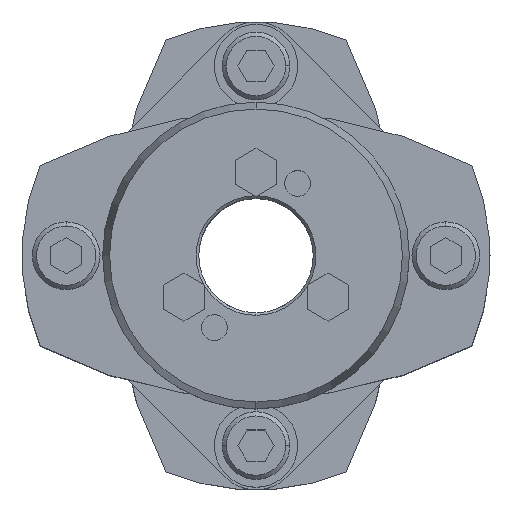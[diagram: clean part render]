
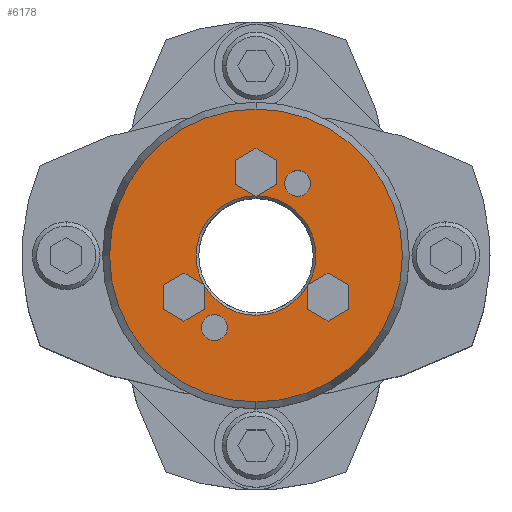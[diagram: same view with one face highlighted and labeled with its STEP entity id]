
A CAD part, top view. The second image highlights one B-rep face of the part: STEP entity #6178.
In plain terms, the highlighted planar face has unit normal (0, 0, 1).
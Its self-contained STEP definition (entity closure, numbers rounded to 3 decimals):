
#1694=CARTESIAN_POINT('',(0.,-11.5,52.0));
#1695=VERTEX_POINT('',#1694);
#1702=CARTESIAN_POINT('',(9.856,-5.925,52.0));
#1703=VERTEX_POINT('',#1702);
#1704=CARTESIAN_POINT('',(0.,0.,52.0));
#1705=DIRECTION('',(0.0,0.0,1.0));
#1706=DIRECTION('',(0.0,1.0,0.0));
#1707=AXIS2_PLACEMENT_3D('',#1704,#1705,#1706);
#1708=CIRCLE('',#1707,11.5);
#1709=EDGE_CURVE('',#1695,#1703,#1708,.T.);
#1711=CARTESIAN_POINT('',(10.059,-5.574,52.0));
#1712=VERTEX_POINT('',#1711);
#1720=CARTESIAN_POINT('',(0.203,11.498,52.0));
#1721=VERTEX_POINT('',#1720);
#1722=CARTESIAN_POINT('',(0.,0.,52.0));
#1723=DIRECTION('',(0.0,0.0,1.0));
#1724=DIRECTION('',(0.0,1.0,0.0));
#1725=AXIS2_PLACEMENT_3D('',#1722,#1723,#1724);
#1726=CIRCLE('',#1725,11.5);
#1727=EDGE_CURVE('',#1712,#1721,#1726,.T.);
#1892=CARTESIAN_POINT('',(0.,-28.16,52.0));
#1893=VERTEX_POINT('',#1892);
#1900=CARTESIAN_POINT('',(0.,28.16,52.0));
#1901=VERTEX_POINT('',#1900);
#1902=CARTESIAN_POINT('',(0.,0.,52.0));
#1903=DIRECTION('',(0.0,0.0,-1.0));
#1904=DIRECTION('',(0.0,-1.0,0.0));
#1905=AXIS2_PLACEMENT_3D('',#1902,#1903,#1904);
#1906=CIRCLE('',#1905,28.16);
#1907=EDGE_CURVE('',#1893,#1901,#1906,.T.);
#2150=CARTESIAN_POINT('',(8.,16.356,52.0));
#2151=VERTEX_POINT('',#2150);
#2167=CARTESIAN_POINT('',(8.,11.356,52.0));
#2168=VERTEX_POINT('',#2167);
#2175=CARTESIAN_POINT('',(8.,13.856,52.0));
#2176=DIRECTION('',(0.0,0.0,-1.0));
#2177=DIRECTION('',(0.0,1.0,0.0));
#2178=AXIS2_PLACEMENT_3D('',#2175,#2176,#2177);
#2179=CIRCLE('',#2178,2.5);
#2180=EDGE_CURVE('',#2151,#2168,#2179,.T.);
#2192=CARTESIAN_POINT('',(-8.,-11.356,52.0));
#2193=VERTEX_POINT('',#2192);
#2209=CARTESIAN_POINT('',(-8.,-16.356,52.0));
#2210=VERTEX_POINT('',#2209);
#2217=CARTESIAN_POINT('',(-8.,-13.856,52.0));
#2218=DIRECTION('',(0.0,0.0,-1.0));
#2219=DIRECTION('',(0.0,1.0,0.0));
#2220=AXIS2_PLACEMENT_3D('',#2217,#2218,#2219);
#2221=CIRCLE('',#2220,2.5);
#2222=EDGE_CURVE('',#2193,#2210,#2221,.T.);
#4604=CARTESIAN_POINT('',(13.856,-3.381,52.0));
#4605=VERTEX_POINT('',#4604);
#4612=CARTESIAN_POINT('',(10.059,-5.574,52.0));
#4613=DIRECTION('',(0.866,0.5,0.0));
#4614=VECTOR('',#4613,4.385);
#4615=LINE('',#4612,#4614);
#4616=EDGE_CURVE('',#1712,#4605,#4615,.T.);
#4648=CARTESIAN_POINT('',(17.856,-5.691,52.0));
#4649=VERTEX_POINT('',#4648);
#4656=CARTESIAN_POINT('',(13.856,-3.381,52.0));
#4657=DIRECTION('',(0.866,-0.5,0.0));
#4658=VECTOR('',#4657,4.619);
#4659=LINE('',#4656,#4658);
#4660=EDGE_CURVE('',#4605,#4649,#4659,.T.);
#4679=CARTESIAN_POINT('',(17.856,-10.309,52.0));
#4680=VERTEX_POINT('',#4679);
#4687=CARTESIAN_POINT('',(17.856,-5.691,52.0));
#4688=DIRECTION('',(0.0,-1.0,0.0));
#4689=VECTOR('',#4688,4.619);
#4690=LINE('',#4687,#4689);
#4691=EDGE_CURVE('',#4649,#4680,#4690,.T.);
#4710=CARTESIAN_POINT('',(13.856,-12.619,52.0));
#4711=VERTEX_POINT('',#4710);
#4718=CARTESIAN_POINT('',(17.856,-10.309,52.0));
#4719=DIRECTION('',(-0.866,-0.5,0.0));
#4720=VECTOR('',#4719,4.619);
#4721=LINE('',#4718,#4720);
#4722=EDGE_CURVE('',#4680,#4711,#4721,.T.);
#4741=CARTESIAN_POINT('',(9.856,-10.309,52.0));
#4742=VERTEX_POINT('',#4741);
#4749=CARTESIAN_POINT('',(13.856,-12.619,52.0));
#4750=DIRECTION('',(-0.866,0.5,0.0));
#4751=VECTOR('',#4750,4.619);
#4752=LINE('',#4749,#4751);
#4753=EDGE_CURVE('',#4711,#4742,#4752,.T.);
#4777=CARTESIAN_POINT('',(9.856,-10.309,52.0));
#4778=DIRECTION('',(0.0,1.0,0.0));
#4779=VECTOR('',#4778,4.385);
#4780=LINE('',#4777,#4779);
#4781=EDGE_CURVE('',#4742,#1703,#4780,.T.);
#4827=CARTESIAN_POINT('',(0.,20.619,52.0));
#4828=VERTEX_POINT('',#4827);
#4835=CARTESIAN_POINT('',(-4.,18.309,52.0));
#4836=VERTEX_POINT('',#4835);
#4837=CARTESIAN_POINT('',(-4.,18.309,52.0));
#4838=DIRECTION('',(0.866,0.5,0.0));
#4839=VECTOR('',#4838,4.619);
#4840=LINE('',#4837,#4839);
#4841=EDGE_CURVE('',#4836,#4828,#4840,.T.);
#4865=CARTESIAN_POINT('',(4.,18.309,52.0));
#4866=VERTEX_POINT('',#4865);
#4873=CARTESIAN_POINT('',(0.,20.619,52.0));
#4874=DIRECTION('',(0.866,-0.5,0.0));
#4875=VECTOR('',#4874,4.619);
#4876=LINE('',#4873,#4875);
#4877=EDGE_CURVE('',#4828,#4866,#4876,.T.);
#4896=CARTESIAN_POINT('',(4.,13.691,52.0));
#4897=VERTEX_POINT('',#4896);
#4904=CARTESIAN_POINT('',(4.,18.309,52.0));
#4905=DIRECTION('',(0.0,-1.0,0.0));
#4906=VECTOR('',#4905,4.619);
#4907=LINE('',#4904,#4906);
#4908=EDGE_CURVE('',#4866,#4897,#4907,.T.);
#4941=CARTESIAN_POINT('',(4.,13.691,52.0));
#4942=DIRECTION('',(-0.866,-0.5,0.0));
#4943=VECTOR('',#4942,4.385);
#4944=LINE('',#4941,#4943);
#4945=EDGE_CURVE('',#4897,#1721,#4944,.T.);
#4964=CARTESIAN_POINT('',(-4.,13.691,52.0));
#4965=VERTEX_POINT('',#4964);
#4972=CARTESIAN_POINT('',(-0.203,11.498,52.0));
#4973=VERTEX_POINT('',#4972);
#4974=CARTESIAN_POINT('',(-0.203,11.498,52.0));
#4975=DIRECTION('',(-0.866,0.5,0.0));
#4976=VECTOR('',#4975,4.385);
#4977=LINE('',#4974,#4976);
#4978=EDGE_CURVE('',#4973,#4965,#4977,.T.);
#5002=CARTESIAN_POINT('',(-4.,13.691,52.0));
#5003=DIRECTION('',(0.0,1.0,0.0));
#5004=VECTOR('',#5003,4.619);
#5005=LINE('',#5002,#5004);
#5006=EDGE_CURVE('',#4965,#4836,#5005,.T.);
#5059=CARTESIAN_POINT('',(-13.856,-3.381,52.0));
#5060=VERTEX_POINT('',#5059);
#5067=CARTESIAN_POINT('',(-17.856,-5.691,52.0));
#5068=VERTEX_POINT('',#5067);
#5069=CARTESIAN_POINT('',(-17.856,-5.691,52.0));
#5070=DIRECTION('',(0.866,0.5,0.0));
#5071=VECTOR('',#5070,4.619);
#5072=LINE('',#5069,#5071);
#5073=EDGE_CURVE('',#5068,#5060,#5072,.T.);
#5105=CARTESIAN_POINT('',(-10.059,-5.574,52.0));
#5106=VERTEX_POINT('',#5105);
#5113=CARTESIAN_POINT('',(-13.856,-3.381,52.0));
#5114=DIRECTION('',(0.866,-0.5,0.0));
#5115=VECTOR('',#5114,4.385);
#5116=LINE('',#5113,#5115);
#5117=EDGE_CURVE('',#5060,#5106,#5116,.T.);
#5136=CARTESIAN_POINT('',(-9.856,-10.309,52.0));
#5137=VERTEX_POINT('',#5136);
#5144=CARTESIAN_POINT('',(-9.856,-5.925,52.0));
#5145=VERTEX_POINT('',#5144);
#5146=CARTESIAN_POINT('',(-9.856,-5.925,52.0));
#5147=DIRECTION('',(0.0,-1.0,0.0));
#5148=VECTOR('',#5147,4.385);
#5149=LINE('',#5146,#5148);
#5150=EDGE_CURVE('',#5145,#5137,#5149,.T.);
#5175=CARTESIAN_POINT('',(-13.856,-12.619,52.0));
#5176=VERTEX_POINT('',#5175);
#5183=CARTESIAN_POINT('',(-9.856,-10.309,52.0));
#5184=DIRECTION('',(-0.866,-0.5,0.0));
#5185=VECTOR('',#5184,4.619);
#5186=LINE('',#5183,#5185);
#5187=EDGE_CURVE('',#5137,#5176,#5186,.T.);
#5206=CARTESIAN_POINT('',(-17.856,-10.309,52.0));
#5207=VERTEX_POINT('',#5206);
#5214=CARTESIAN_POINT('',(-13.856,-12.619,52.0));
#5215=DIRECTION('',(-0.866,0.5,0.0));
#5216=VECTOR('',#5215,4.619);
#5217=LINE('',#5214,#5216);
#5218=EDGE_CURVE('',#5176,#5207,#5217,.T.);
#5236=CARTESIAN_POINT('',(-17.856,-10.309,52.0));
#5237=DIRECTION('',(0.0,1.0,0.0));
#5238=VECTOR('',#5237,4.619);
#5239=LINE('',#5236,#5238);
#5240=EDGE_CURVE('',#5207,#5068,#5239,.T.);
#5283=CARTESIAN_POINT('',(-8.,-13.856,52.0));
#5284=DIRECTION('',(0.0,0.0,-1.0));
#5285=DIRECTION('',(0.0,1.0,0.0));
#5286=AXIS2_PLACEMENT_3D('',#5283,#5284,#5285);
#5287=CIRCLE('',#5286,2.5);
#5288=EDGE_CURVE('',#2210,#2193,#5287,.T.);
#5317=CARTESIAN_POINT('',(8.,13.856,52.0));
#5318=DIRECTION('',(0.0,0.0,-1.0));
#5319=DIRECTION('',(0.0,1.0,0.0));
#5320=AXIS2_PLACEMENT_3D('',#5317,#5318,#5319);
#5321=CIRCLE('',#5320,2.5);
#5322=EDGE_CURVE('',#2168,#2151,#5321,.T.);
#6115=CARTESIAN_POINT('',(0.,0.,52.0));
#6116=DIRECTION('',(0.0,0.0,-1.0));
#6117=DIRECTION('',(0.0,-1.0,0.0));
#6118=AXIS2_PLACEMENT_3D('',#6115,#6116,#6117);
#6119=CIRCLE('',#6118,28.16);
#6120=EDGE_CURVE('',#1901,#1893,#6119,.T.);
#6125=CARTESIAN_POINT('',(0.,2.682,52.0));
#6126=DIRECTION('',(0.0,0.0,1.0));
#6127=DIRECTION('',(0.0,1.0,0.0));
#6128=AXIS2_PLACEMENT_3D('',#6125,#6126,#6127);
#6129=PLANE('',#6128);
#6130=ORIENTED_EDGE('',*,*,#6120,.F.);
#6131=ORIENTED_EDGE('',*,*,#1907,.F.);
#6132=EDGE_LOOP('',(#6130,#6131));
#6133=FACE_OUTER_BOUND('',#6132,.T.);
#6134=ORIENTED_EDGE('',*,*,#4781,.T.);
#6135=ORIENTED_EDGE('',*,*,#1709,.F.);
#6136=CARTESIAN_POINT('',(0.,0.,52.0));
#6137=DIRECTION('',(0.0,0.0,1.0));
#6138=DIRECTION('',(0.0,1.0,0.0));
#6139=AXIS2_PLACEMENT_3D('',#6136,#6137,#6138);
#6140=CIRCLE('',#6139,11.5);
#6141=EDGE_CURVE('',#5145,#1695,#6140,.T.);
#6142=ORIENTED_EDGE('',*,*,#6141,.F.);
#6143=ORIENTED_EDGE('',*,*,#5150,.T.);
#6144=ORIENTED_EDGE('',*,*,#5187,.T.);
#6145=ORIENTED_EDGE('',*,*,#5218,.T.);
#6146=ORIENTED_EDGE('',*,*,#5240,.T.);
#6147=ORIENTED_EDGE('',*,*,#5073,.T.);
#6148=ORIENTED_EDGE('',*,*,#5117,.T.);
#6149=CARTESIAN_POINT('',(0.,0.,52.0));
#6150=DIRECTION('',(0.0,0.0,1.0));
#6151=DIRECTION('',(0.0,1.0,0.0));
#6152=AXIS2_PLACEMENT_3D('',#6149,#6150,#6151);
#6153=CIRCLE('',#6152,11.5);
#6154=EDGE_CURVE('',#4973,#5106,#6153,.T.);
#6155=ORIENTED_EDGE('',*,*,#6154,.F.);
#6156=ORIENTED_EDGE('',*,*,#4978,.T.);
#6157=ORIENTED_EDGE('',*,*,#5006,.T.);
#6158=ORIENTED_EDGE('',*,*,#4841,.T.);
#6159=ORIENTED_EDGE('',*,*,#4877,.T.);
#6160=ORIENTED_EDGE('',*,*,#4908,.T.);
#6161=ORIENTED_EDGE('',*,*,#4945,.T.);
#6162=ORIENTED_EDGE('',*,*,#1727,.F.);
#6163=ORIENTED_EDGE('',*,*,#4616,.T.);
#6164=ORIENTED_EDGE('',*,*,#4660,.T.);
#6165=ORIENTED_EDGE('',*,*,#4691,.T.);
#6166=ORIENTED_EDGE('',*,*,#4722,.T.);
#6167=ORIENTED_EDGE('',*,*,#4753,.T.);
#6168=EDGE_LOOP('',(#6134,#6135,#6142,#6143,#6144,#6145,#6146,#6147,#6148,#6155,#6156,#6157,#6158,#6159,#6160,#6161,#6162,#6163,#6164,#6165,#6166,#6167));
#6169=FACE_BOUND('',#6168,.T.);
#6170=ORIENTED_EDGE('',*,*,#2222,.T.);
#6171=ORIENTED_EDGE('',*,*,#5288,.T.);
#6172=EDGE_LOOP('',(#6170,#6171));
#6173=FACE_BOUND('',#6172,.T.);
#6174=ORIENTED_EDGE('',*,*,#2180,.T.);
#6175=ORIENTED_EDGE('',*,*,#5322,.T.);
#6176=EDGE_LOOP('',(#6174,#6175));
#6177=FACE_BOUND('',#6176,.T.);
#6178=ADVANCED_FACE('',(#6133,#6169,#6173,#6177),#6129,.T.);
